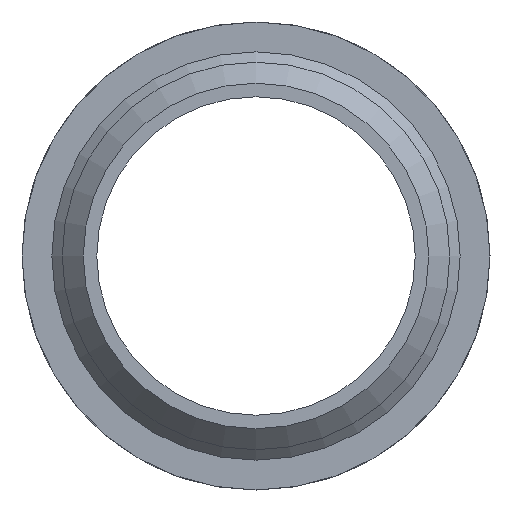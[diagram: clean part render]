
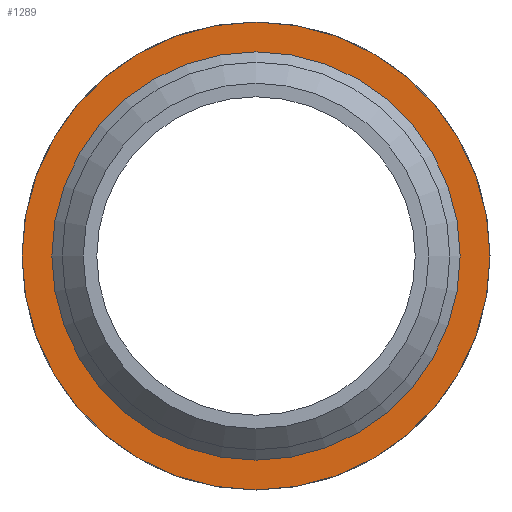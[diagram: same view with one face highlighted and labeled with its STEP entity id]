
A CAD part, left-side view. The second image highlights one B-rep face of the part: STEP entity #1289.
In plain terms, the highlighted planar face has unit normal (-1, 0, 0).
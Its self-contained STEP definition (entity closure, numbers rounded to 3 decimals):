
#199=CARTESIAN_POINT('',(-51.406,65.,0.));
#200=VERTEX_POINT('',#199);
#201=CARTESIAN_POINT('',(-51.406,0.,0.));
#202=DIRECTION('',(1.0,0.0,0.0));
#203=DIRECTION('',(0.0,1.0,0.0));
#204=AXIS2_PLACEMENT_3D('',#201,#202,#203);
#205=CIRCLE('',#204,65.);
#206=EDGE_CURVE('',#200,#200,#205,.T.);
#1270=CARTESIAN_POINT('',(-51.406,69.75,0.));
#1271=DIRECTION('',(-1.0,0.0,0.0));
#1272=DIRECTION('',(0.0,0.0,1.0));
#1273=AXIS2_PLACEMENT_3D('',#1270,#1271,#1272);
#1274=PLANE('',#1273);
#1275=CARTESIAN_POINT('',(-51.406,74.5,0.));
#1276=VERTEX_POINT('',#1275);
#1277=CARTESIAN_POINT('',(-51.406,0.,0.));
#1278=DIRECTION('',(1.0,0.0,0.0));
#1279=DIRECTION('',(0.0,1.0,0.0));
#1280=AXIS2_PLACEMENT_3D('',#1277,#1278,#1279);
#1281=CIRCLE('',#1280,74.5);
#1282=EDGE_CURVE('',#1276,#1276,#1281,.T.);
#1283=ORIENTED_EDGE('',*,*,#1282,.F.);
#1284=EDGE_LOOP('',(#1283));
#1285=FACE_OUTER_BOUND('',#1284,.T.);
#1286=ORIENTED_EDGE('',*,*,#206,.T.);
#1287=EDGE_LOOP('',(#1286));
#1288=FACE_BOUND('',#1287,.T.);
#1289=ADVANCED_FACE('',(#1285,#1288),#1274,.T.);
